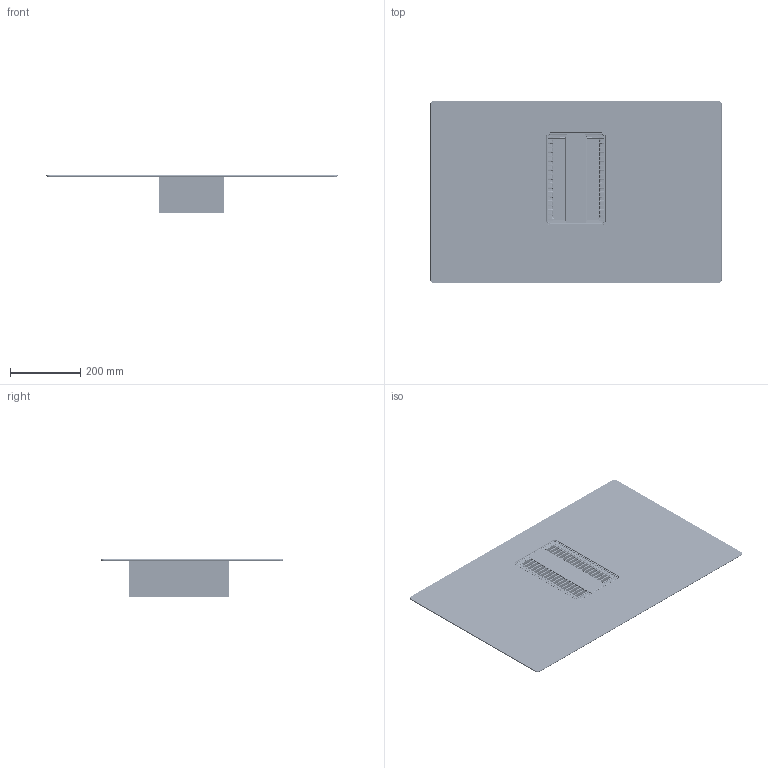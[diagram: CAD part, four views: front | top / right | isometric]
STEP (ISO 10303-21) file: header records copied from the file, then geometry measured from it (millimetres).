
FILE_DESCRIPTION(/* description */ (''),/* implementation_level */ '2;1');
FILE_NAME(/* name */ '3D001_Hoods_Mythos_FMY-839-HE',/* time_stamp */ '2024-03-01T16:55:31+01:00',/* author */ (''),/* organization */ (''),/* preprocessor_version */ 'ST-DEVELOPER v19.2',/* originating_system */ 'Rhino 8.3',/* authorisation */ '');
FILE_SCHEMA (('CONFIG_CONTROL_DESIGN'));
Products named in the file (24): Document; Block_16; Block_17; Block_18; Block_15; Block_14; Block_13; Block_12; Block_11; Block_10; Block_9; Block_8; Block_7; Block_6; Block_5; Block_3; Block_4; Block_2; Block_1; Block_0; 340006_001; 340006_946_ASM; 340006_233; 340006_234
Bounding box: 830 x 520 x 120.65 mm (x, y, z)
Volume: 1823718.3 mm3; surface area: 1294126.9 mm2
Topology: 4 solids, 22021 shells, 23706 faces, 136524 edges, 134798 vertices
Faces by surface type: plane 22554, cylinder 724, bspline 428
Entity records: 1557739 total; most frequent: CARTESIAN_POINT 895226, B_SPLINE_CURVE_WITH_KNOTS 124730, ORIENTED_EDGE 118631, EDGE_CURVE 114497, VERTEX_POINT 112771, DIRECTION 25188, AXIS2_PLACEMENT_3D 24233, EDGE_LOOP 23767
